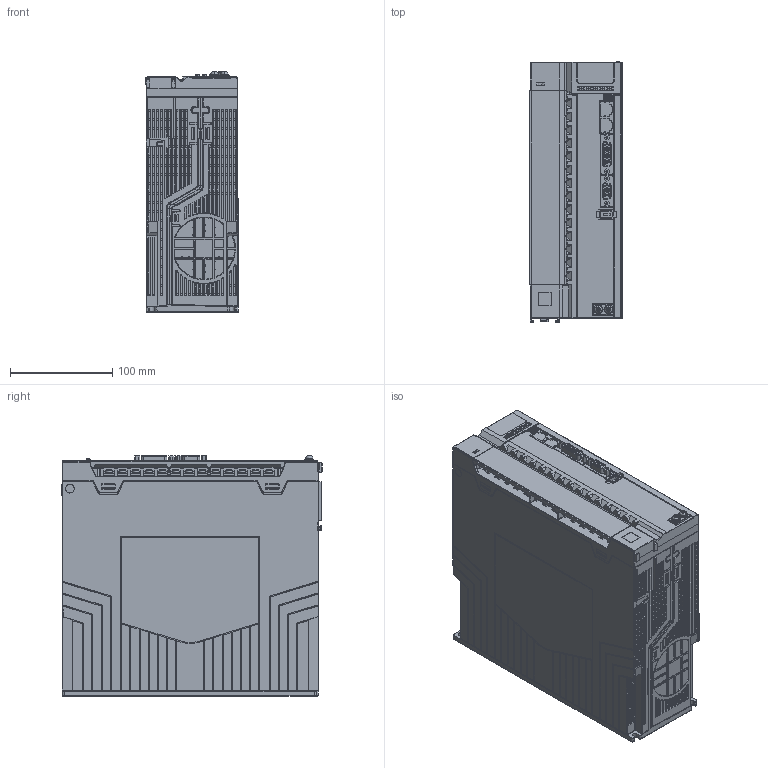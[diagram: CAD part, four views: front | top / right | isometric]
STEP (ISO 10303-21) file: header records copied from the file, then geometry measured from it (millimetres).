
FILE_DESCRIPTION((''),'2;1');
FILE_NAME('SV670-INT-SIZE-E_ASM_1_ASM','2024-02-03T',('10009991'),(''),'CREO PARAMETRIC BY PTC INC, 2015290','CREO PARAMETRIC BY PTC INC, 2015290','');
FILE_SCHEMA(('AUTOMOTIVE_DESIGN { 1 0 10303 214 1 1 1 1 }'));
Products named in the file (4): SV670-INT-SIZE-E_1; SV670-INT-SIZE-E-_ASM_1_ASM; 20211536_2_1_1_1; SV670-INT-SIZE-E_ASM_1_ASM
Assembly tree (3 placements, depth 3):
  SV670-INT-SIZE-E_ASM_1_ASM
    SV670-INT-SIZE-E-_ASM_1_ASM
      SV670-INT-SIZE-E_1
    20211536_2_1_1_1
Bounding box: 90.35 x 254 x 235.11 mm (x, y, z)
Volume: 5027255.6 mm3; surface area: 249821.5 mm2
Topology: 2 solids, 7 shells, 6517 faces, 16828 edges, 10438 vertices
Faces by surface type: plane 3799, cylinder 1594, bspline 651, cone 192, torus 177, sphere 76, extrusion 28
Entity records: 251563 total; most frequent: CARTESIAN_POINT 101017, ORIENTED_EDGE 33484, DIRECTION 27027, EDGE_CURVE 16742, VECTOR 10581, LINE 10553, VERTEX_POINT 10437, AXIS2_PLACEMENT_3D 8223
